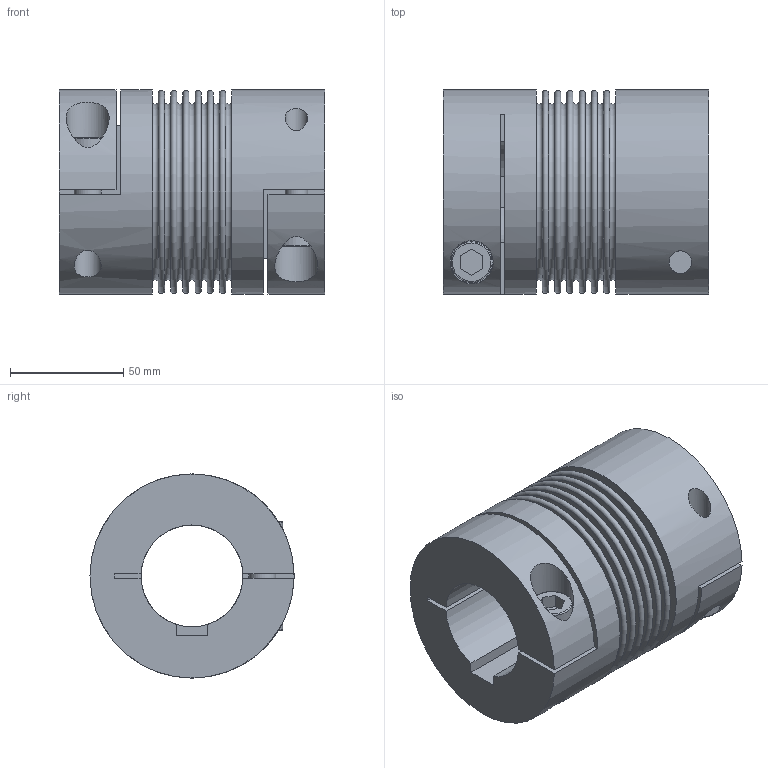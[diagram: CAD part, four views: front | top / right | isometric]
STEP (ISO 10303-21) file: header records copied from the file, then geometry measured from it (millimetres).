
FILE_DESCRIPTION(/* description */ ('STEP AP214'),/* implementation_level */ '2;1');
FILE_NAME(/* name */ 'C:\Diequa Files\DieQua Coupling\Website Step Files\BC.200.117.#.#.stp',/* time_stamp */ '2018-10-25T16:21:06-05:00',/* author */ ('DiequaCAD'),/* organization */ (''),/* preprocessor_version */ 'ST-DEVELOPER v17.2',/* originating_system */ 'Autodesk Inventor 2019',/* authorisation */ ' ');
FILE_SCHEMA (('AUTOMOTIVE_DESIGN { 1 0 10303 214 3 1 1 }'));
Length unit declared in the file: millimetre
Products named in the file (1): BC2.200.117.#.#
Bounding box: 117 x 90 x 90 mm (x, y, z)
Volume: 405732.5 mm3; surface area: 101777.8 mm2
Topology: 1 solids, 1 shells, 88 faces, 218 edges, 154 vertices
Faces by surface type: plane 58, torus 15, cylinder 15
Full cylindrical faces by diameter (mm): 10 x2, 12 x2, 18 x2, 19 x2, 74 x1, 90 x2
Entity records: 2895 total; most frequent: CARTESIAN_POINT 611, DIRECTION 495, ORIENTED_EDGE 436, EDGE_CURVE 218, AXIS2_PLACEMENT_3D 194, VERTEX_POINT 154, EDGE_LOOP 116, LINE 107
